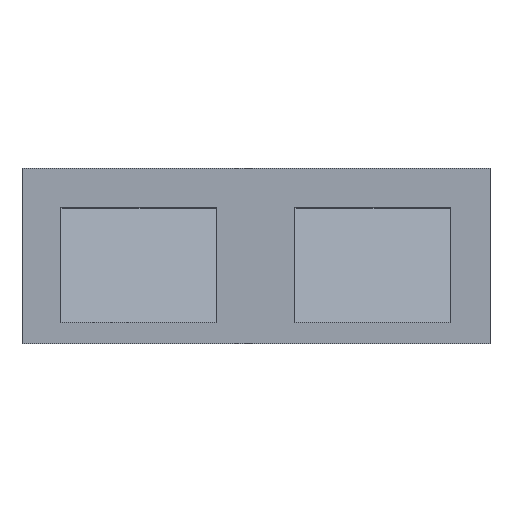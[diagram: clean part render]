
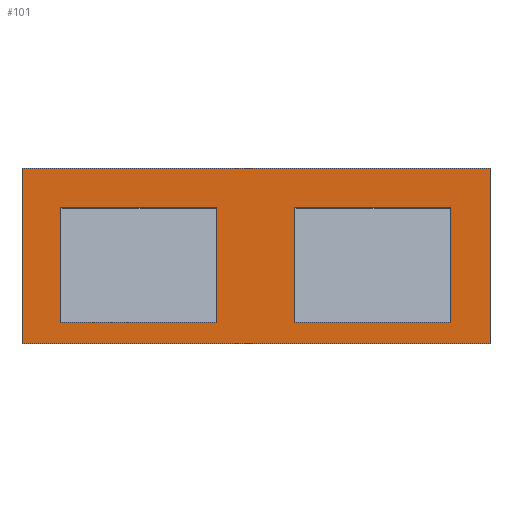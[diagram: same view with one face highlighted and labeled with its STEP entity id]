
A CAD part, top view. The second image highlights one B-rep face of the part: STEP entity #101.
In plain terms, the highlighted planar face has unit normal (0, 0, 1).
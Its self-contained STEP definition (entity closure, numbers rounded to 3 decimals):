
#48=FACE_BOUND('',#334,.T.);
#49=FACE_BOUND('',#335,.T.);
#50=FACE_BOUND('',#336,.T.);
#101=ADVANCED_FACE('',(#48,#49,#50),#185,.F.);
#185=PLANE('',#1610);
#334=EDGE_LOOP('',(#544,#545,#546,#547));
#335=EDGE_LOOP('',(#548,#549,#550,#551));
#336=EDGE_LOOP('',(#552,#553,#554,#555));
#544=ORIENTED_EDGE('',*,*,#1048,.F.);
#545=ORIENTED_EDGE('',*,*,#1097,.F.);
#546=ORIENTED_EDGE('',*,*,#1095,.T.);
#547=ORIENTED_EDGE('',*,*,#1098,.T.);
#548=ORIENTED_EDGE('',*,*,#1009,.T.);
#549=ORIENTED_EDGE('',*,*,#1047,.T.);
#550=ORIENTED_EDGE('',*,*,#1099,.F.);
#551=ORIENTED_EDGE('',*,*,#1100,.F.);
#552=ORIENTED_EDGE('',*,*,#1101,.F.);
#553=ORIENTED_EDGE('',*,*,#1102,.T.);
#554=ORIENTED_EDGE('',*,*,#1103,.T.);
#555=ORIENTED_EDGE('',*,*,#1104,.F.);
#863=VERTEX_POINT('',#2082);
#867=VERTEX_POINT('',#2089);
#901=VERTEX_POINT('',#2170);
#902=VERTEX_POINT('',#2174);
#903=VERTEX_POINT('',#2175);
#937=VERTEX_POINT('',#2296);
#938=VERTEX_POINT('',#2298);
#939=VERTEX_POINT('',#2304);
#940=VERTEX_POINT('',#2307);
#941=VERTEX_POINT('',#2308);
#942=VERTEX_POINT('',#2310);
#943=VERTEX_POINT('',#2312);
#1009=EDGE_CURVE('',#863,#867,#1222,.T.);
#1047=EDGE_CURVE('',#867,#901,#1259,.T.);
#1048=EDGE_CURVE('',#902,#903,#1260,.T.);
#1095=EDGE_CURVE('',#938,#937,#1302,.T.);
#1097=EDGE_CURVE('',#938,#902,#1304,.T.);
#1098=EDGE_CURVE('',#937,#903,#1305,.T.);
#1099=EDGE_CURVE('',#939,#901,#1306,.T.);
#1100=EDGE_CURVE('',#863,#939,#1307,.T.);
#1101=EDGE_CURVE('',#940,#941,#1308,.T.);
#1102=EDGE_CURVE('',#940,#942,#1309,.T.);
#1103=EDGE_CURVE('',#942,#943,#1310,.T.);
#1104=EDGE_CURVE('',#941,#943,#1311,.T.);
#1222=LINE('',#2090,#1410);
#1259=LINE('',#2171,#1447);
#1260=LINE('',#2173,#1448);
#1302=LINE('',#2297,#1490);
#1304=LINE('',#2301,#1492);
#1305=LINE('',#2302,#1493);
#1306=LINE('',#2303,#1494);
#1307=LINE('',#2305,#1495);
#1308=LINE('',#2306,#1496);
#1309=LINE('',#2309,#1497);
#1310=LINE('',#2311,#1498);
#1311=LINE('',#2313,#1499);
#1410=VECTOR('',#1698,1.);
#1447=VECTOR('',#1747,1.);
#1448=VECTOR('',#1750,1.);
#1490=VECTOR('',#1812,1.);
#1492=VECTOR('',#1816,1.);
#1493=VECTOR('',#1817,1.);
#1494=VECTOR('',#1818,1.);
#1495=VECTOR('',#1819,1.);
#1496=VECTOR('',#1820,1.);
#1497=VECTOR('',#1821,1.);
#1498=VECTOR('',#1822,1.);
#1499=VECTOR('',#1823,1.);
#1610=AXIS2_PLACEMENT_3D('',#2314,#1824,#1825);
#1698=DIRECTION('',(0.,-1.,0.));
#1747=DIRECTION('',(-1.,0.,0.));
#1750=DIRECTION('',(-1.,0.,0.));
#1812=DIRECTION('',(-1.,0.,0.));
#1816=DIRECTION('',(0.,-1.,0.));
#1817=DIRECTION('',(0.,-1.,0.));
#1818=DIRECTION('',(0.,-1.,0.));
#1819=DIRECTION('',(-1.,0.,0.));
#1820=DIRECTION('',(0.,-1.,0.));
#1821=DIRECTION('',(1.,0.,0.));
#1822=DIRECTION('',(0.,-1.,0.));
#1823=DIRECTION('',(1.,0.,0.));
#1824=DIRECTION('',(0.,0.,-1.));
#1825=DIRECTION('',(-1.,0.,0.));
#2082=CARTESIAN_POINT('',(200.,28.,0.));
#2089=CARTESIAN_POINT('',(200.,-267.,0.));
#2090=CARTESIAN_POINT('',(200.,128.,0.));
#2170=CARTESIAN_POINT('',(-200.,-267.,0.));
#2171=CARTESIAN_POINT('',(200.,-267.,0.));
#2173=CARTESIAN_POINT('',(200.,-322.,0.));
#2174=CARTESIAN_POINT('',(900.,-322.,0.));
#2175=CARTESIAN_POINT('',(-300.,-322.,0.));
#2296=CARTESIAN_POINT('',(-300.,128.,0.));
#2297=CARTESIAN_POINT('',(200.,128.,0.));
#2298=CARTESIAN_POINT('',(900.,128.,0.));
#2301=CARTESIAN_POINT('',(900.,128.,0.));
#2302=CARTESIAN_POINT('',(-300.,128.,0.));
#2303=CARTESIAN_POINT('',(-200.,128.,0.));
#2304=CARTESIAN_POINT('',(-200.,28.,0.));
#2305=CARTESIAN_POINT('',(200.,28.,0.));
#2306=CARTESIAN_POINT('',(400.,128.,0.));
#2307=CARTESIAN_POINT('',(400.,28.,0.));
#2308=CARTESIAN_POINT('',(400.,-267.,0.));
#2309=CARTESIAN_POINT('',(400.,28.,0.));
#2310=CARTESIAN_POINT('',(800.,28.,0.));
#2311=CARTESIAN_POINT('',(800.,128.,0.));
#2312=CARTESIAN_POINT('',(800.,-267.,0.));
#2313=CARTESIAN_POINT('',(400.,-267.,0.));
#2314=CARTESIAN_POINT('',(200.,128.,0.));
